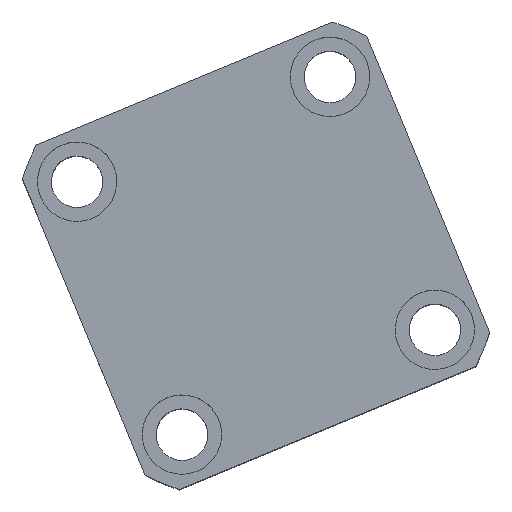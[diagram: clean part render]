
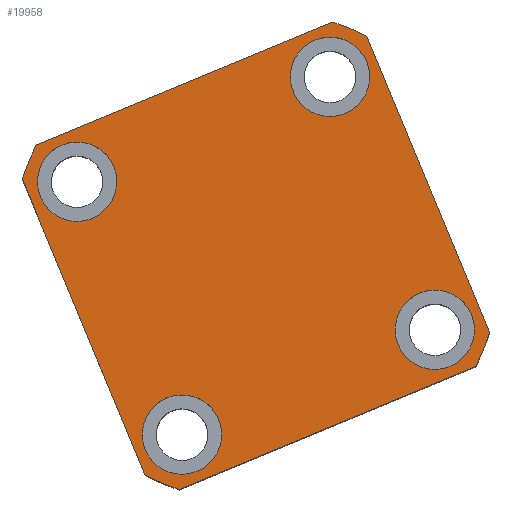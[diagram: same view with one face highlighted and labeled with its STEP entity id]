
A CAD part, top view. The second image highlights one B-rep face of the part: STEP entity #19958.
In plain terms, the highlighted planar face has unit normal (0, 0, 1) as drawn and (0, 0, -1) by its records, which use the part's own axes.
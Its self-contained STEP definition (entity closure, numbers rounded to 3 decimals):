
#163 = EDGE_CURVE ( 'NONE', #8051, #12839, #1295, .T. ) ;
#235 = FACE_BOUND ( 'NONE', #14609, .T. ) ;
#567 = DIRECTION ( 'NONE',  ( 1., 0., 0. ) ) ;
#682 = DIRECTION ( 'NONE',  ( -1., 0., 0. ) ) ;
#836 = CIRCLE ( 'NONE', #12922, 10. ) ;
#935 = DIRECTION ( 'NONE',  ( 0., 0., 1. ) ) ;
#1000 = EDGE_CURVE ( 'NONE', #12839, #13468, #22354, .T. ) ;
#1223 = EDGE_CURVE ( 'NONE', #12551, #7842, #21285, .T. ) ;
#1295 = LINE ( 'NONE', #18607, #19115 ) ;
#1391 = VERTEX_POINT ( 'NONE', #21991 ) ;
#1512 = VERTEX_POINT ( 'NONE', #3209 ) ;
#1783 = CARTESIAN_POINT ( 'NONE',  ( -34.5, 34.5, 0. ) ) ;
#2381 = CARTESIAN_POINT ( 'NONE',  ( -47., -47., 0. ) ) ;
#2409 = AXIS2_PLACEMENT_3D ( 'NONE', #3909, #15972, #5619 ) ;
#2496 = CARTESIAN_POINT ( 'NONE',  ( 0., 0., 0. ) ) ;
#2586 = AXIS2_PLACEMENT_3D ( 'NONE', #11268, #935, #13014 ) ;
#2900 = VERTEX_POINT ( 'NONE', #6699 ) ;
#2945 = CARTESIAN_POINT ( 'NONE',  ( 34.5, 34.5, 0. ) ) ;
#2980 = LINE ( 'NONE', #2381, #11623 ) ;
#3029 = CIRCLE ( 'NONE', #9408, 10. ) ;
#3209 = CARTESIAN_POINT ( 'NONE',  ( 40.435, -47., 0. ) ) ;
#3509 = DIRECTION ( 'NONE',  ( -1., 0., 0. ) ) ;
#3641 = EDGE_CURVE ( 'NONE', #1512, #2900, #8143, .T. ) ;
#3678 = EDGE_LOOP ( 'NONE', ( #16158, #13355 ) ) ;
#3692 = EDGE_CURVE ( 'NONE', #7842, #12551, #3029, .T. ) ;
#3719 = VERTEX_POINT ( 'NONE', #11161 ) ;
#3909 = CARTESIAN_POINT ( 'NONE',  ( 0., 0., 0. ) ) ;
#3910 = VERTEX_POINT ( 'NONE', #18192 ) ;
#3919 = CARTESIAN_POINT ( 'NONE',  ( 44.5, -34.5, 0. ) ) ;
#3986 = DIRECTION ( 'NONE',  ( 0., 0., 1. ) ) ;
#4061 = ORIENTED_EDGE ( 'NONE', *, *, #18976, .F. ) ;
#4159 = ORIENTED_EDGE ( 'NONE', *, *, #1223, .F. ) ;
#4227 = CARTESIAN_POINT ( 'NONE',  ( -47., -40.435, 0. ) ) ;
#4237 = DIRECTION ( 'NONE',  ( 1., 0., 0. ) ) ;
#4301 = DIRECTION ( 'NONE',  ( 0., 0., -1. ) ) ;
#4307 = FACE_OUTER_BOUND ( 'NONE', #7336, .T. ) ;
#4353 = CIRCLE ( 'NONE', #16313, 10. ) ;
#4401 = AXIS2_PLACEMENT_3D ( 'NONE', #7729, #19810, #9482 ) ;
#4686 = DIRECTION ( 'NONE',  ( -1., 0., 0. ) ) ;
#4819 = FACE_BOUND ( 'NONE', #16792, .T. ) ;
#5084 = CIRCLE ( 'NONE', #7720, 10. ) ;
#5418 = DIRECTION ( 'NONE',  ( -1., 0., 0. ) ) ;
#5619 = DIRECTION ( 'NONE',  ( 1., 0., 0. ) ) ;
#5891 = ORIENTED_EDGE ( 'NONE', *, *, #15685, .F. ) ;
#5954 = AXIS2_PLACEMENT_3D ( 'NONE', #2496, #14572, #4237 ) ;
#6161 = CIRCLE ( 'NONE', #22028, 10. ) ;
#6274 = VERTEX_POINT ( 'NONE', #16249 ) ;
#6699 = CARTESIAN_POINT ( 'NONE',  ( 47., -40.435, 0. ) ) ;
#7336 = EDGE_LOOP ( 'NONE', ( #22016, #4061, #21710, #16740, #13514, #22221, #14016, #5891 ) ) ;
#7720 = AXIS2_PLACEMENT_3D ( 'NONE', #8002, #20090, #9751 ) ;
#7729 = CARTESIAN_POINT ( 'NONE',  ( -34.5, -34.5, 0. ) ) ;
#7842 = VERTEX_POINT ( 'NONE', #18718 ) ;
#8002 = CARTESIAN_POINT ( 'NONE',  ( -34.5, 34.5, 0. ) ) ;
#8051 = VERTEX_POINT ( 'NONE', #15948 ) ;
#8143 = CIRCLE ( 'NONE', #5954, 62. ) ;
#8192 = VERTEX_POINT ( 'NONE', #17835 ) ;
#8296 = DIRECTION ( 'NONE',  ( 0., 0., -1. ) ) ;
#8304 = CARTESIAN_POINT ( 'NONE',  ( -24.5, -34.5, 0. ) ) ;
#8326 = AXIS2_PLACEMENT_3D ( 'NONE', #18647, #8296, #20369 ) ;
#8372 = EDGE_CURVE ( 'NONE', #6274, #17084, #4353, .T. ) ;
#8461 = VERTEX_POINT ( 'NONE', #10498 ) ;
#8725 = DIRECTION ( 'NONE',  ( 0., 0., -1. ) ) ;
#8791 = DIRECTION ( 'NONE',  ( 0., 0., 1. ) ) ;
#8854 = FACE_BOUND ( 'NONE', #12115, .T. ) ;
#9408 = AXIS2_PLACEMENT_3D ( 'NONE', #14636, #4301, #16369 ) ;
#9453 = CARTESIAN_POINT ( 'NONE',  ( 47., 47., 0. ) ) ;
#9482 = DIRECTION ( 'NONE',  ( -1., 0., 0. ) ) ;
#9751 = DIRECTION ( 'NONE',  ( -1., 0., 0. ) ) ;
#9763 = AXIS2_PLACEMENT_3D ( 'NONE', #14326, #3986, #16067 ) ;
#10013 = EDGE_CURVE ( 'NONE', #8461, #3719, #18102, .T. ) ;
#10223 = VECTOR ( 'NONE', #12936, 1000. ) ;
#10494 = DIRECTION ( 'NONE',  ( 0., -1., 0. ) ) ;
#10498 = CARTESIAN_POINT ( 'NONE',  ( 44.5, 34.5, 0. ) ) ;
#10500 = VECTOR ( 'NONE', #5418, 1000. ) ;
#10774 = LINE ( 'NONE', #9453, #10223 ) ;
#10868 = ORIENTED_EDGE ( 'NONE', *, *, #3692, .F. ) ;
#11002 = DIRECTION ( 'NONE',  ( 0., 0., -1. ) ) ;
#11161 = CARTESIAN_POINT ( 'NONE',  ( 24.5, 34.5, 0. ) ) ;
#11268 = CARTESIAN_POINT ( 'NONE',  ( 0., 0., 0. ) ) ;
#11434 = EDGE_CURVE ( 'NONE', #13756, #3910, #18945, .T. ) ;
#11623 = VECTOR ( 'NONE', #567, 1000. ) ;
#11903 = CIRCLE ( 'NONE', #4401, 10. ) ;
#12115 = EDGE_LOOP ( 'NONE', ( #10868, #4159 ) ) ;
#12551 = VERTEX_POINT ( 'NONE', #3919 ) ;
#12839 = VERTEX_POINT ( 'NONE', #4227 ) ;
#12922 = AXIS2_PLACEMENT_3D ( 'NONE', #19062, #8725, #20792 ) ;
#12936 = DIRECTION ( 'NONE',  ( 0., 1., 0. ) ) ;
#13014 = DIRECTION ( 'NONE',  ( 1., 0., 0. ) ) ;
#13245 = VERTEX_POINT ( 'NONE', #8304 ) ;
#13355 = ORIENTED_EDGE ( 'NONE', *, *, #10013, .F. ) ;
#13468 = VERTEX_POINT ( 'NONE', #20683 ) ;
#13471 = FACE_BOUND ( 'NONE', #3678, .T. ) ;
#13514 = ORIENTED_EDGE ( 'NONE', *, *, #1000, .F. ) ;
#13756 = VERTEX_POINT ( 'NONE', #16045 ) ;
#13825 = EDGE_CURVE ( 'NONE', #13468, #1512, #2980, .T. ) ;
#13871 = DIRECTION ( 'NONE',  ( 0., 0., -1. ) ) ;
#14016 = ORIENTED_EDGE ( 'NONE', *, *, #16771, .F. ) ;
#14326 = CARTESIAN_POINT ( 'NONE',  ( 0., 0., 0. ) ) ;
#14572 = DIRECTION ( 'NONE',  ( 0., 0., 1. ) ) ;
#14609 = EDGE_LOOP ( 'NONE', ( #17669, #21056 ) ) ;
#14636 = CARTESIAN_POINT ( 'NONE',  ( 34.5, -34.5, 0. ) ) ;
#15014 = DIRECTION ( 'NONE',  ( 0., 0., -1. ) ) ;
#15685 = EDGE_CURVE ( 'NONE', #3910, #1391, #20222, .T. ) ;
#15948 = CARTESIAN_POINT ( 'NONE',  ( -47., 40.435, 0. ) ) ;
#15972 = DIRECTION ( 'NONE',  ( 0., 0., 1. ) ) ;
#16045 = CARTESIAN_POINT ( 'NONE',  ( 47., 40.435, 0. ) ) ;
#16067 = DIRECTION ( 'NONE',  ( 1., 0., 0. ) ) ;
#16158 = ORIENTED_EDGE ( 'NONE', *, *, #20669, .F. ) ;
#16249 = CARTESIAN_POINT ( 'NONE',  ( -44.5, 34.5, 0. ) ) ;
#16313 = AXIS2_PLACEMENT_3D ( 'NONE', #1783, #13871, #3509 ) ;
#16369 = DIRECTION ( 'NONE',  ( -1., 0., 0. ) ) ;
#16705 = EDGE_CURVE ( 'NONE', #13245, #8192, #836, .T. ) ;
#16740 = ORIENTED_EDGE ( 'NONE', *, *, #13825, .F. ) ;
#16771 = EDGE_CURVE ( 'NONE', #1391, #8051, #22143, .T. ) ;
#16792 = EDGE_LOOP ( 'NONE', ( #21696, #19207 ) ) ;
#17084 = VERTEX_POINT ( 'NONE', #21111 ) ;
#17149 = EDGE_CURVE ( 'NONE', #8192, #13245, #11903, .T. ) ;
#17536 = AXIS2_PLACEMENT_3D ( 'NONE', #19134, #8791, #20869 ) ;
#17669 = ORIENTED_EDGE ( 'NONE', *, *, #8372, .F. ) ;
#17835 = CARTESIAN_POINT ( 'NONE',  ( -44.5, -34.5, 0. ) ) ;
#18102 = CIRCLE ( 'NONE', #18468, 10. ) ;
#18192 = CARTESIAN_POINT ( 'NONE',  ( 40.435, 47., 0. ) ) ;
#18468 = AXIS2_PLACEMENT_3D ( 'NONE', #2945, #15014, #4686 ) ;
#18607 = CARTESIAN_POINT ( 'NONE',  ( -47., 47., 0. ) ) ;
#18647 = CARTESIAN_POINT ( 'NONE',  ( 34.5, -34.5, 0. ) ) ;
#18718 = CARTESIAN_POINT ( 'NONE',  ( 24.5, -34.5, 0. ) ) ;
#18945 = CIRCLE ( 'NONE', #9763, 62. ) ;
#18976 = EDGE_CURVE ( 'NONE', #2900, #13756, #10774, .T. ) ;
#19062 = CARTESIAN_POINT ( 'NONE',  ( -34.5, -34.5, 0. ) ) ;
#19115 = VECTOR ( 'NONE', #10494, 1000. ) ;
#19134 = CARTESIAN_POINT ( 'NONE',  ( 0., 0., 0. ) ) ;
#19207 = ORIENTED_EDGE ( 'NONE', *, *, #16705, .F. ) ;
#19810 = DIRECTION ( 'NONE',  ( 0., 0., -1. ) ) ;
#19958 = ADVANCED_FACE ( 'NONE', ( #8854, #4819, #235, #13471, #4307 ), #21086, .F. ) ;
#20090 = DIRECTION ( 'NONE',  ( 0., 0., -1. ) ) ;
#20222 = LINE ( 'NONE', #20799, #10500 ) ;
#20369 = DIRECTION ( 'NONE',  ( -1., 0., 0. ) ) ;
#20669 = EDGE_CURVE ( 'NONE', #3719, #8461, #6161, .T. ) ;
#20683 = CARTESIAN_POINT ( 'NONE',  ( -40.435, -47., 0. ) ) ;
#20792 = DIRECTION ( 'NONE',  ( -1., 0., 0. ) ) ;
#20799 = CARTESIAN_POINT ( 'NONE',  ( -47., 47., 0. ) ) ;
#20869 = DIRECTION ( 'NONE',  ( 1., 0., 0. ) ) ;
#21017 = EDGE_CURVE ( 'NONE', #17084, #6274, #5084, .T. ) ;
#21056 = ORIENTED_EDGE ( 'NONE', *, *, #21017, .F. ) ;
#21086 = PLANE ( 'NONE',  #2409 ) ;
#21111 = CARTESIAN_POINT ( 'NONE',  ( -24.5, 34.5, 0. ) ) ;
#21285 = CIRCLE ( 'NONE', #8326, 10. ) ;
#21332 = CARTESIAN_POINT ( 'NONE',  ( 34.5, 34.5, 0. ) ) ;
#21696 = ORIENTED_EDGE ( 'NONE', *, *, #17149, .F. ) ;
#21710 = ORIENTED_EDGE ( 'NONE', *, *, #3641, .F. ) ;
#21991 = CARTESIAN_POINT ( 'NONE',  ( -40.435, 47., 0. ) ) ;
#22016 = ORIENTED_EDGE ( 'NONE', *, *, #11434, .F. ) ;
#22028 = AXIS2_PLACEMENT_3D ( 'NONE', #21332, #11002, #682 ) ;
#22143 = CIRCLE ( 'NONE', #17536, 62. ) ;
#22221 = ORIENTED_EDGE ( 'NONE', *, *, #163, .F. ) ;
#22354 = CIRCLE ( 'NONE', #2586, 62. ) ;
